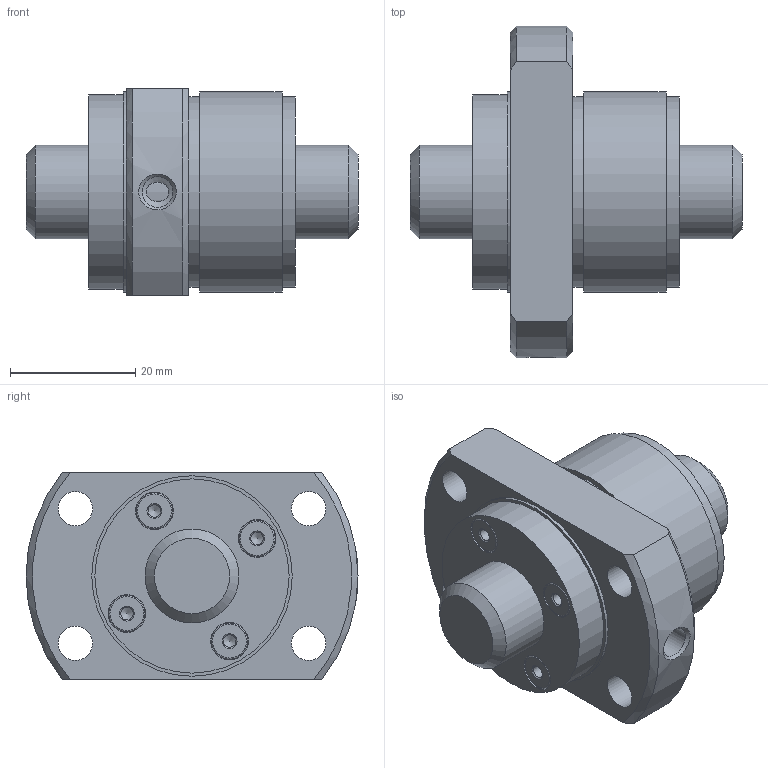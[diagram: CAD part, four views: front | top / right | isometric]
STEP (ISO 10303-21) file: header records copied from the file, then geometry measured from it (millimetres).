
FILE_DESCRIPTION(/* description */ ('STEP AP203'),/* implementation_level */ '2;1');
FILE_NAME(/* name */ 'WGF1530-1G1+53LC3_N0_13_0_0',/* time_stamp */ '2025-01-16T06:25:21+01:00',/* author */ ('License CC BY-ND 4.0'),/* organization */ ('CADENAS'),/* preprocessor_version */ 'ST-DEVELOPER v19.3',/* originating_system */ 'PARTsolutions',/* authorisation */ ' ');
FILE_SCHEMA (('CONFIG_CONTROL_DESIGN'));
Length unit declared in the file: millimetre
Products named in the file (3): WGF1530-1G1+53LC3_N0_13_0_0; N0130WGF1530-10Shaft; N0130WGF1530-1Nut
Assembly tree (2 placements, depth 2):
  WGF1530-1G1+53LC3_N0_13_0_0
    N0130WGF1530-10Shaft
    N0130WGF1530-1Nut
Bounding box: 53 x 53 x 33 mm (x, y, z)
Volume: 36178.9 mm3; surface area: 12692.4 mm2
Topology: 2 solids, 2 shells, 65 faces, 132 edges, 84 vertices
Faces by surface type: cylinder 26, plane 19, cone 16, torus 4
Full cylindrical faces by diameter (mm): 2 x4, 4.917 x1, 5.5 x4, 5.8 x4, 6 x4, 15 x2, 30.4 x2, 31 x1, 32 x2
Entity records: 1587 total; most frequent: CARTESIAN_POINT 280, DIRECTION 276, ORIENTED_EDGE 168, FACE_BOUND 134, AXIS2_PLACEMENT_3D 134, EDGE_LOOP 130, EDGE_CURVE 84, VERTEX_POINT 80
